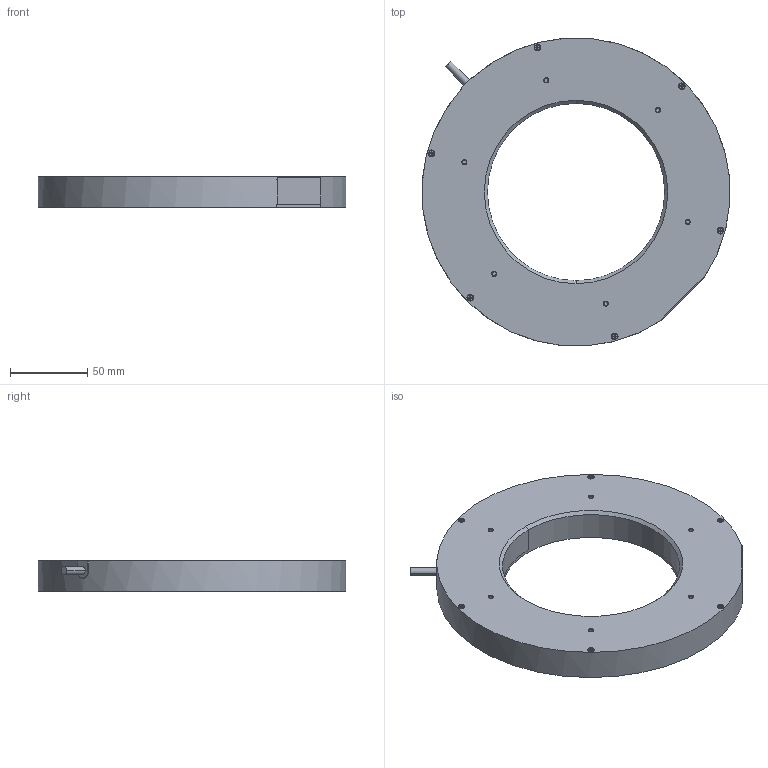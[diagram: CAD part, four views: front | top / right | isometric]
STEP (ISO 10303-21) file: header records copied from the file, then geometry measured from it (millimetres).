
FILE_DESCRIPTION((''),'2;1');
FILE_NAME('200-90','2024-03-29T18:21:01',('qiaoxuan5'),(''),'CREO PARAMETRIC BY PTC INC, 2020044','CREO PARAMETRIC BY PTC INC, 2020044','');
FILE_SCHEMA(('CONFIG_CONTROL_DESIGN'));
Length unit declared in the file: millimetre
Products named in the file (1): 200-90
Bounding box: 199.64 x 199.64 x 20 mm (x, y, z)
Volume: 419013.2 mm3; surface area: 62560.7 mm2
Topology: 1 solids, 14 shells, 583 faces, 1323 edges, 783 vertices
Faces by surface type: plane 340, cylinder 154, cone 60, torus 25, sphere 4
Entity records: 16340 total; most frequent: CARTESIAN_POINT 3263, DIRECTION 2740, ORIENTED_EDGE 2638, EDGE_CURVE 1319, AXIS2_PLACEMENT_3D 956, VECTOR 828, LINE 828, VERTEX_POINT 783
